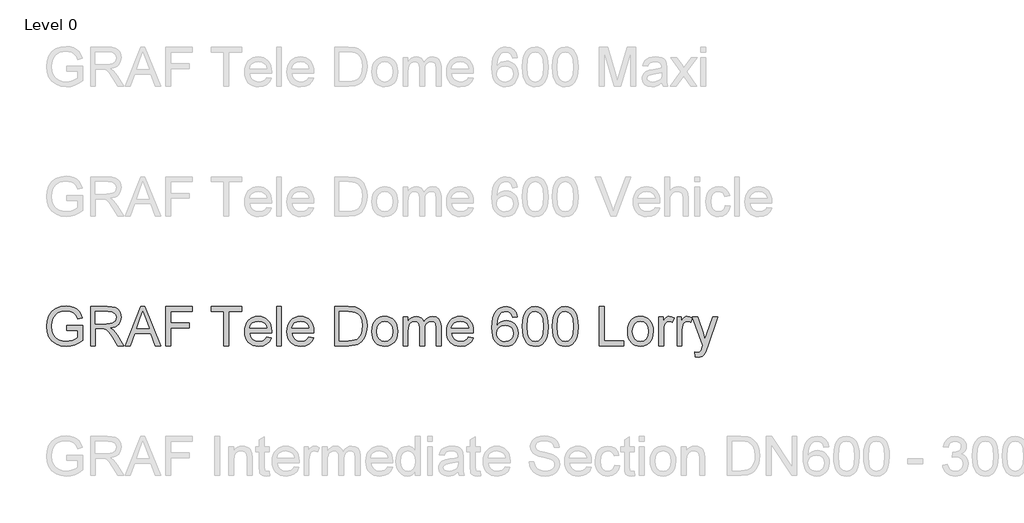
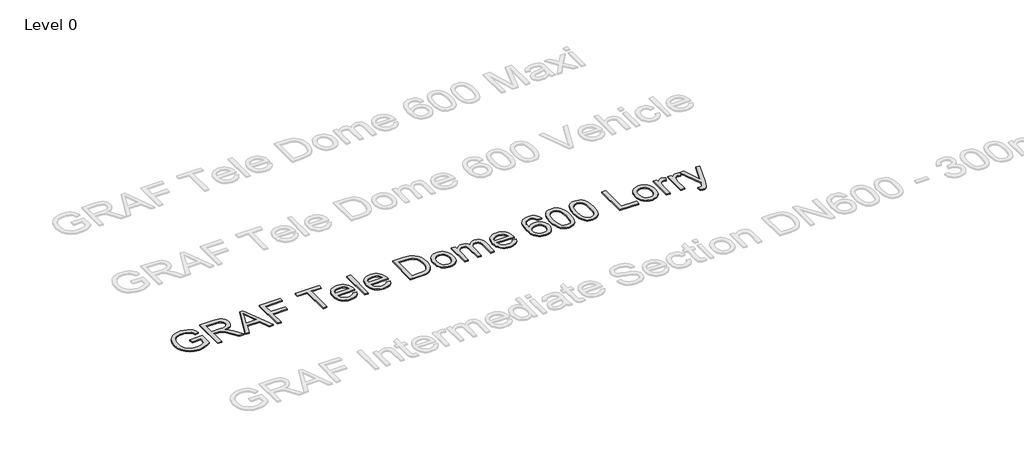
# One storey, part 3 of 14: 1 proxy.
"""IFC4 building model written with IfcOpenShell, lengths in millimetres."""

from ifc_helpers import new_model, si_unit, origin, origin_with_axes, place, context, project, spatial, polyline, outline, extrude, element, save

model = new_model("IFC4")

# Units and contexts
model_context = context("Model", 3, world=origin())
ifc_project = project(units=[si_unit("LENGTHUNIT", "METRE", prefix="MILLI")], contexts=[model_context])

# Site, building, storey
site = spatial("IfcSite", under=ifc_project)
building = spatial("IfcBuilding", under=site)
storey = spatial("IfcBuildingStorey", under=building, Name="Level 0", Elevation=0.0)

# Proxy
placement = place(None, origin())
element("IfcBuildingElementProxy", 1, Name="300mm Arial", ObjectType="300mm Arial", at=placement, inside=storey, context=model_context, shape_type="SweptSolid", body=[
    extrude(outline(polyline([(-15240.9940387, -11082.8803891), (-15240.9940387, -11045.2092728), (-15118.5629107, -11045.2092728), (-15118.5629107, -11157.8547397), (-15148.3153671, -11178.5481019), (-15179.0059225, -11193.3921404), (-15210.5610007, -11202.3316729), (-15242.9070251, -11205.3115171), (-15285.1674693, -11200.5750364), (-15323.3628175, -11186.3655943), (-15355.0926395, -11163.1798316), (-15377.9565055, -11131.5143888), (-15391.7796715, -11093.5305728), (-15396.3873935, -11051.3896903), (-15391.7980656, -11008.9453051), (-15378.0300819, -10969.46237), (-15355.6536596, -10936.3437934), (-15325.2390156, -10912.9924837), (-15288.1932987, -10899.1417266), (-15245.9236575, -10894.5248075), (-15214.8928112, -10897.2011491), (-15186.9889618, -10905.2301736), (-15163.4904994, -10918.032467), (-15145.6758138, -10935.0286152), (-15132.4964413, -10957.0371556), (-15122.9039183, -10984.8766256), (-15157.6319786, -10994.6622866), (-15165.3850917, -10974.8058559), (-15174.8120678, -10959.8238617), (-15187.2832674, -10948.5298844), (-15204.169051, -10939.7375048), (-15224.3013932, -10934.0813191), (-15246.5122687, -10932.1959239), (-15272.5123287, -10934.2284719), (-15294.7415982, -10940.3261159), (-15313.1173039, -10949.7255009), (-15327.5566722, -10961.6632717), (-15346.9440533, -10990.6891611), (-15355.7732212, -11019.1264393), (-15358.7162772, -11049.8445859), (-15355.175413, -11085.8694303), (-15344.5528204, -11115.5115221), (-15327.1703961, -11138.5593291), (-15303.3500369, -11154.8013191), (-15275.4737787, -11164.4306304), (-15245.9236575, -11167.6404008), (-15219.831627, -11165.2215767), (-15194.3833899, -11157.9651043), (-15172.2828791, -11147.9679111), (-15156.234027, -11137.3269244), (-15156.234027, -11082.8803891), (-15240.9940387, -11082.8803891)])), origin_with_axes(), (0.0, 0.0, 1.0), 10.0),
    extrude(outline(polyline([(-15057.3473467, -11200.6026275), (-15057.3473467, -10899.2336971), (-14927.4850024, -10899.2336971), (-14892.5821982, -10901.2662451), (-14867.1891434, -10907.3638892), (-14848.6294968, -10918.6210782), (-14834.2269167, -10936.1322612), (-14824.9838815, -10957.846496), (-14821.9028698, -10981.7128404), (-14827.0072325, -11011.4009174), (-14842.3203206, -11036.0122229), (-14853.9200997, -11046.0416058), (-14868.3019865, -11054.0568348), (-14905.4120827, -11064.0448309), (-14884.0013506, -11080.1580623), (-14853.467145, -11118.9328246), (-14803.2144645, -11200.6026275), (-14846.9924219, -11200.6026275), (-14886.2086426, -11138.1362648), (-14914.5355562, -11096.7863285), (-14934.4379722, -11077.2517946), (-14952.3538253, -11070.0780956), (-14974.2060158, -11068.7537205), (-15019.6762304, -11068.7537205), (-15019.6762304, -11200.6026275), (-15057.3473467, -11200.6026275)]), holes=[polyline([(-15019.6762304, -11031.0826042), (-14935.3576771, -11031.0826042), (-14911.1418448, -11029.7490319), (-14892.3522719, -11025.7483152), (-14878.2072092, -11018.8137396), (-14867.9249074, -11008.6785907), (-14861.6617165, -10996.4189232), (-14859.5739861, -10983.110792), (-14863.5563087, -10964.7350863), (-14875.5032765, -10949.927836), (-14896.058683, -10940.1605691), (-14925.8663217, -10936.9048134), (-15019.6762304, -10936.9048134), (-15019.6762304, -11031.0826042)])]), origin_with_axes(), (0.0, 0.0, 1.0), 10.0),
    extrude(outline(polyline([(-14791.0743586, -11200.6026275), (-14670.7769462, -10899.2336971), (-14638.6976362, -10899.2336971), (-14518.4002238, -11200.6026275), (-14558.2050557, -11200.6026275), (-14592.7123868, -11106.4248368), (-14716.835772, -11106.4248368), (-14751.2695268, -11200.6026275), (-14791.0743586, -11200.6026275)]), holes=[polyline([(-14703.003409, -11068.7537205), (-14606.4711735, -11068.7537205), (-14633.6208647, -10994.6622866), (-14654.7372912, -10936.9048134), (-14673.499273, -10988.1875635), (-14703.003409, -11068.7537205)])]), origin_with_axes(), (0.0, 0.0, 1.0), 10.0),
    extrude(outline(polyline([(-14478.1539335, -11200.6026275), (-14478.1539335, -10899.2336971), (-14275.6716834, -10899.2336971), (-14275.6716834, -10936.9048134), (-14440.4828172, -10936.9048134), (-14440.4828172, -11026.3737146), (-14299.2161311, -11026.3737146), (-14299.2161311, -11064.0448309), (-14440.4828172, -11064.0448309), (-14440.4828172, -11200.6026275), (-14478.1539335, -11200.6026275)])), origin_with_axes(), (0.0, 0.0, 1.0), 10.0),
    extrude(outline(polyline([(-14030.8094274, -11200.6026275), (-14030.8094274, -10936.9048134), (-14129.6961077, -10936.9048134), (-14129.6961077, -10899.2336971), (-13894.2516308, -10899.2336971), (-13894.2516308, -10936.9048134), (-13993.1383111, -10936.9048134), (-13993.1383111, -11200.6026275), (-14030.8094274, -11200.6026275)])), origin_with_axes(), (0.0, 0.0, 1.0), 10.0),
    extrude(outline(polyline([(-13701.6286181, -11134.678174), (-13664.6932658, -11139.3870635), (-13678.001397, -11167.2173365), (-13699.2373851, -11188.0210633), (-13727.9229837, -11200.9889036), (-13763.5799461, -11205.3115171), (-13786.9542484, -11203.4468152), (-13807.7809678, -11197.8527096), (-13826.0601045, -11188.5292003), (-13841.7916583, -11175.4762873), (-13854.4422004, -11159.057254), (-13863.4783019, -11139.6353839), (-13868.8999628, -11117.210677), (-13870.7071831, -11091.7831334), (-13868.8815687, -11065.4933663), (-13863.4047255, -11042.3213991), (-13854.2766535, -11022.2672319), (-13841.4973527, -11005.3308645), (-13825.8071856, -10991.8755805), (-13807.9465147, -10982.2646634), (-13787.9153401, -10976.4981131), (-13765.7136617, -10974.5759297), (-13744.2270539, -10976.4935146), (-13724.7959868, -10982.2462693), (-13707.4204603, -10991.8341938), (-13692.1004744, -11005.2572881), (-13679.5947859, -11022.1568673), (-13670.6621512, -11042.1742463), (-13665.3025704, -11065.3094253), (-13663.5160434, -11091.5624042), (-13663.7367726, -11101.7159472), (-13833.0360668, -11101.7159472), (-13826.5153584, -11129.9141022), (-13811.3678173, -11150.6442526), (-13789.5064297, -11163.3913637), (-13762.8441821, -11167.6404008), (-13742.7946134, -11165.6722321), (-13725.9088298, -11159.7677261), (-13712.1868314, -11149.5590007), (-13701.6286181, -11134.678174)]), holes=[polyline([(-13833.0360668, -11064.0448309), (-13701.1871597, -11064.0448309), (-13706.2823254, -11044.142415), (-13716.2703215, -11029.9053818), (-13738.2328766, -11016.6616299), (-13765.8608145, -11012.247046), (-13791.2538692, -11015.7695161), (-13812.2507341, -11026.3369264), (-13826.8464522, -11042.8088428), (-13833.0360668, -11064.0448309)])]), origin_with_axes(), (0.0, 0.0, 1.0), 10.0),
    extrude(outline(polyline([(-13625.8449271, -11200.6026275), (-13625.8449271, -10899.2336971), (-13588.1738108, -10899.2336971), (-13588.1738108, -11200.6026275), (-13625.8449271, -11200.6026275)])), origin_with_axes(), (0.0, 0.0, 1.0), 10.0),
    extrude(outline(polyline([(-13376.71524, -11134.678174), (-13339.7798877, -11139.3870635), (-13353.0880188, -11167.2173365), (-13374.324007, -11188.0210633), (-13403.0096056, -11200.9889036), (-13438.666568, -11205.3115171), (-13462.0408702, -11203.4468152), (-13482.8675897, -11197.8527096), (-13501.1467263, -11188.5292003), (-13516.8782801, -11175.4762873), (-13529.5288222, -11159.057254), (-13538.5649238, -11139.6353839), (-13543.9865847, -11117.210677), (-13545.793805, -11091.7831334), (-13543.9681906, -11065.4933663), (-13538.4913474, -11042.3213991), (-13529.3632754, -11022.2672319), (-13516.5839745, -11005.3308645), (-13500.8938074, -10991.8755805), (-13483.0331366, -10982.2646634), (-13463.0019619, -10976.4981131), (-13440.8002835, -10974.5759297), (-13419.3136758, -10976.4935146), (-13399.8826086, -10982.2462693), (-13382.5070821, -10991.8341938), (-13367.1870963, -11005.2572881), (-13354.6814077, -11022.1568673), (-13345.748773, -11042.1742463), (-13340.3891922, -11065.3094253), (-13338.6026653, -11091.5624042), (-13338.8233945, -11101.7159472), (-13508.1226887, -11101.7159472), (-13501.6019803, -11129.9141022), (-13486.4544391, -11150.6442526), (-13464.5930516, -11163.3913637), (-13437.930804, -11167.6404008), (-13417.8812352, -11165.6722321), (-13400.9954517, -11159.7677261), (-13387.2734532, -11149.5590007), (-13376.71524, -11134.678174)]), holes=[polyline([(-13508.1226887, -11064.0448309), (-13376.2737816, -11064.0448309), (-13381.3689472, -11044.142415), (-13391.3569434, -11029.9053818), (-13413.3194985, -11016.6616299), (-13440.9474363, -11012.247046), (-13466.3404911, -11015.7695161), (-13487.3373559, -11026.3369264), (-13501.9330741, -11042.8088428), (-13508.1226887, -11064.0448309)])]), origin_with_axes(), (0.0, 0.0, 1.0), 10.0),
    extrude(outline(polyline([(-13178.500421, -11200.6026275), (-13178.500421, -10899.2336971), (-13074.5369691, -10899.2336971), (-13020.7526214, -10903.5747046), (-12996.7299272, -10911.94402), (-12976.4596292, -10925.1325895), (-12955.6191142, -10948.088426), (-12940.7750757, -10976.6360689), (-12931.8907255, -11010.223695), (-12928.9292754, -11048.2994815), (-12930.9342323, -11080.645506), (-12936.9491029, -11109.1103753), (-12946.1093646, -11133.3446018), (-12957.5504947, -11152.9986974), (-12970.7206701, -11168.5141205), (-12985.0680679, -11180.3323296), (-13001.5399842, -11189.0971181), (-13021.0837152, -11195.4522796), (-13069.533774, -11200.6026275), (-13178.500421, -11200.6026275)]), holes=[polyline([(-13140.8293047, -11162.9315112), (-13074.1690871, -11162.9315112), (-13046.5963316, -11161.5703478), (-13025.6822402, -11157.4868577), (-13009.9001026, -11150.9201641), (-12997.7232085, -11142.1093903), (-12984.6358066, -11125.8030209), (-12974.8041602, -11104.6957914), (-12968.6513339, -11078.6957314), (-12966.6003918, -11047.7108703), (-12970.6195026, -11006.6552397), (-12982.6768349, -10976.3417633), (-13000.4915206, -10955.5196424), (-13021.782691, -10942.9380781), (-13043.4509405, -10938.4131296), (-13075.1991567, -10936.9048134), (-13140.8293047, -10936.9048134), (-13140.8293047, -11162.9315112)])]), origin_with_axes(), (0.0, 0.0, 1.0), 10.0),
    extrude(outline(polyline([(-12891.2581591, -11089.9437234), (-12889.2210126, -11061.2811174), (-12883.1095729, -11036.58244), (-12872.9238402, -11015.847691), (-12858.6638144, -10999.0768706), (-12844.3072195, -10988.3577089), (-12828.4607026, -10980.7011649), (-12811.1242635, -10976.1072385), (-12792.2979024, -10974.5759297), (-12771.514869, -10976.4406316), (-12752.7229968, -10982.0347372), (-12735.9222859, -10991.3582465), (-12721.1127364, -11004.4111595), (-12709.0255136, -11020.7520179), (-12700.391783, -11039.9393632), (-12695.2115447, -11061.9731954), (-12693.4847985, -11086.8535146), (-12696.5382191, -11124.910907), (-12705.6984808, -11153.8816141), (-12720.6988691, -11175.5774548), (-12741.2726697, -11191.8102479), (-12765.7092312, -11201.9361998), (-12792.2979024, -11205.3115171), (-12813.3844386, -11203.453713), (-12832.3510547, -11197.8803008), (-12849.1977508, -11188.5912804), (-12863.9245269, -11175.5866519), (-12875.882991, -11159.0871444), (-12884.4247511, -11139.3134871), (-12889.5498071, -11116.2656801), (-12891.2581591, -11089.9437234)]), holes=[polyline([(-12853.5870428, -11089.870147), (-12849.2276412, -11123.9636109), (-12836.1494363, -11148.2530196), (-12816.4677495, -11162.7935555), (-12792.2979024, -11167.6404008), (-12768.23842, -11162.7659643), (-12748.5935214, -11148.142655), (-12735.5153165, -11123.5313495), (-12731.1559148, -11088.6929246), (-12735.5429076, -11055.5927421), (-12748.703886, -11031.6344272), (-12768.3763757, -11017.0938913), (-12792.2979024, -11012.247046), (-12816.4677495, -11017.0754972), (-12836.1494363, -11031.5608508), (-12849.2276412, -11055.7950772), (-12853.5870428, -11089.870147)])]), origin_with_axes(), (0.0, 0.0, 1.0), 10.0),
    extrude(outline(polyline([(-12651.1047927, -11200.6026275), (-12651.1047927, -10979.2848192), (-12613.4336764, -10979.2848192), (-12613.4336764, -11015.7051368), (-12602.1029109, -10998.975703), (-12587.5347839, -10985.869907), (-12570.2259361, -10977.399424), (-12550.673008, -10974.5759297), (-12529.7221284, -10977.4546063), (-12512.9283153, -10986.0906361), (-12500.3835393, -10999.9138021), (-12492.1797708, -11018.3538871), (-12478.4485753, -10999.2010308), (-12462.7859994, -10985.5204191), (-12445.1920429, -10977.312052), (-12425.666706, -10974.5759297), (-12397.3489895, -10979.1284694), (-12376.4073069, -10992.7860885), (-12363.4670577, -11015.9166689), (-12359.1536413, -11048.8880927), (-12359.1536413, -11200.6026275), (-12396.8247576, -11200.6026275), (-12396.8247576, -11065.0749005), (-12400.3196366, -11033.6209899), (-12405.2308612, -11024.9481719), (-12412.9747772, -11018.1331579), (-12422.9351822, -11013.718574), (-12434.4958739, -11012.247046), (-12454.9041276, -11016.0178365), (-12471.5415908, -11027.3302078), (-12482.6056419, -11046.9567123), (-12486.2936589, -11075.669902), (-12486.2936589, -11200.6026275), (-12523.9647752, -11200.6026275), (-12523.9647752, -11060.8810458), (-12526.144476, -11039.5806782), (-12532.6835784, -11024.3871518), (-12544.1890878, -11015.2820725), (-12561.2680095, -11012.247046), (-12575.7809542, -11014.270397), (-12589.1534647, -11020.3404499), (-12600.1899246, -11030.310052), (-12607.6947173, -11044.0320504), (-12611.9989366, -11063.0699436), (-12613.4336764, -11088.9872302), (-12613.4336764, -11200.6026275), (-12651.1047927, -11200.6026275)])), origin_with_axes(), (0.0, 0.0, 1.0), 10.0),
    extrude(outline(polyline([(-12147.6950705, -11134.678174), (-12110.7597182, -11139.3870635), (-12124.0678494, -11167.2173365), (-12145.3038375, -11188.0210633), (-12173.9894361, -11200.9889036), (-12209.6463985, -11205.3115171), (-12233.0207007, -11203.4468152), (-12253.8474202, -11197.8527096), (-12272.1265568, -11188.5292003), (-12287.8581107, -11175.4762873), (-12300.5086528, -11159.057254), (-12309.5447543, -11139.6353839), (-12314.9664152, -11117.210677), (-12316.7736355, -11091.7831334), (-12314.9480211, -11065.4933663), (-12309.4711779, -11042.3213991), (-12300.3431059, -11022.2672319), (-12287.5638051, -11005.3308645), (-12271.873638, -10991.8755805), (-12254.0129671, -10982.2646634), (-12233.9817925, -10976.4981131), (-12211.7801141, -10974.5759297), (-12190.2935063, -10976.4935146), (-12170.8624391, -10982.2462693), (-12153.4869127, -10991.8341938), (-12138.1669268, -11005.2572881), (-12125.6612382, -11022.1568673), (-12116.7286035, -11042.1742463), (-12111.3690227, -11065.3094253), (-12109.5824958, -11091.5624042), (-12109.803225, -11101.7159472), (-12279.1025192, -11101.7159472), (-12272.5818108, -11129.9141022), (-12257.4342697, -11150.6442526), (-12235.5728821, -11163.3913637), (-12208.9106345, -11167.6404008), (-12188.8610658, -11165.6722321), (-12171.9752822, -11159.7677261), (-12158.2532838, -11149.5590007), (-12147.6950705, -11134.678174)]), holes=[polyline([(-12279.1025192, -11064.0448309), (-12147.2536121, -11064.0448309), (-12152.3487777, -11044.142415), (-12162.3367739, -11029.9053818), (-12184.299329, -11016.6616299), (-12211.9272668, -11012.247046), (-12237.3203216, -11015.7695161), (-12258.3171864, -11026.3369264), (-12272.9129046, -11042.8088428), (-12279.1025192, -11064.0448309)])]), origin_with_axes(), (0.0, 0.0, 1.0), 10.0),
    extrude(outline(polyline([(-11770.542449, -10979.2848192), (-11808.2135653, -10983.9937088), (-11814.2836183, -10965.3236975), (-11822.4873868, -10952.5765864), (-11839.5755054, -10940.8227566), (-11860.2320795, -10936.9048134), (-11877.7432624, -10939.1856818), (-11894.2243758, -10946.0282869), (-11908.3786356, -10960.440064), (-11919.9393273, -10980.2781006), (-11927.7476226, -11008.3382998), (-11930.6446933, -11047.4165647), (-11915.5339404, -11029.7858201), (-11897.4249492, -11017.3606057), (-11877.3293952, -11009.9937688), (-11856.2589539, -11007.5381565), (-11838.1591597, -11009.2166181), (-11821.4573172, -11014.2520029), (-11806.1534262, -11022.6443109), (-11792.2474868, -11034.3935421), (-11780.6913936, -11048.8007208), (-11772.4370413, -11065.166871), (-11767.48443, -11083.4919929), (-11765.8335595, -11103.7760864), (-11768.9421624, -11130.7510337), (-11778.2679709, -11155.7578123), (-11793.038433, -11176.9662093), (-11812.4809965, -11192.5460118), (-11835.7127445, -11202.1201408), (-11861.8507602, -11205.3115171), (-11884.3076568, -11203.1961956), (-11904.589451, -11196.8502312), (-11922.696143, -11186.2736238), (-11938.6277326, -11171.4663735), (-11951.6162663, -11151.8030809), (-11960.8937904, -11126.6583465), (-11966.4603048, -11096.0321704), (-11968.3158096, -11059.9245526), (-11966.2556705, -11019.4437375), (-11960.075253, -10984.8950197), (-11949.7745571, -10956.278399), (-11935.3535829, -10933.5938754), (-11919.7231966, -10918.5612974), (-11901.6004098, -10907.8237417), (-11880.9852225, -10901.3812082), (-11857.8776347, -10899.2336971), (-11824.8234374, -10904.5495919), (-11798.3543279, -10920.4972764), (-11779.8130753, -10945.8259518), (-11770.542449, -10979.2848192)]), holes=[polyline([(-11930.6446933, -11103.1874752), (-11928.4649925, -11119.8801207), (-11921.9258901, -11135.8186082), (-11911.772347, -11149.5222125), (-11898.7493244, -11159.5102087), (-11883.0315661, -11165.6078527), (-11864.7938162, -11167.6404008), (-11839.9341904, -11163.4281519), (-11820.3904594, -11150.7914054), (-11807.7261217, -11130.9257777), (-11803.5046758, -11105.0268852), (-11807.6709394, -11080.1672594), (-11820.1697302, -11061.2121396), (-11840.044555, -11049.2099895), (-11866.3389206, -11045.2092728), (-11891.1617582, -11049.2099895), (-11911.9194998, -11061.2121396), (-11925.9633949, -11079.7074069), (-11930.6446933, -11103.1874752)])]), origin_with_axes(), (0.0, 0.0, 1.0), 10.0),
    extrude(outline(polyline([(-11732.8713327, -11052.3461835), (-11730.1030207, -11004.1076569), (-11721.7980847, -10965.6363972), (-11708.0392981, -10936.3437934), (-11688.9094343, -10915.6412341), (-11664.2705377, -10903.3355813), (-11633.9846524, -10899.2336971), (-11610.7712985, -10901.6617183), (-11589.9859658, -10908.9457818), (-11572.6035415, -10920.8007791), (-11559.598913, -10936.9416016), (-11549.7764637, -10957.2302936), (-11541.9405772, -10981.5288994), (-11536.8086234, -11012.3850018), (-11535.0979721, -11052.3461835), (-11537.838693, -11100.3087986), (-11546.0608556, -11138.6880877), (-11559.7368687, -11168.0082828), (-11578.8391413, -11188.7936155), (-11603.5332203, -11201.1820417), (-11633.9846524, -11205.3115171), (-11654.733197, -11203.5180923), (-11673.1272967, -11198.1378182), (-11689.1669517, -11189.1706945), (-11702.8521619, -11176.6167215), (-11715.9855492, -11153.9230009), (-11725.36654, -11125.646671), (-11730.9951346, -11091.7877319), (-11732.8713327, -11052.3461835)]), holes=[polyline([(-11695.2002164, -11052.2726071), (-11690.7856325, -11111.5291995), (-11685.2674026, -11131.7971981), (-11677.5418807, -11145.8249985), (-11657.8234057, -11162.1865502), (-11633.9846524, -11167.6404008), (-11610.1458991, -11162.1681561), (-11590.4274242, -11145.7514221), (-11582.7019023, -11131.7006291), (-11577.1836724, -11111.437229), (-11572.7690884, -11052.2726071), (-11577.0365196, -10994.3495869), (-11582.3708085, -10974.1482669), (-11589.838813, -10959.7870735), (-11609.5204997, -10942.6253784), (-11634.4261108, -10936.9048134), (-11658.0073467, -10941.9447967), (-11676.9532695, -10957.0647467), (-11684.9363088, -10972.6997315), (-11690.6384797, -10993.7793698), (-11695.2002164, -11052.2726071)])]), origin_with_axes(), (0.0, 0.0, 1.0), 10.0),
    extrude(outline(polyline([(-11502.1357454, -11052.3461835), (-11499.3674333, -11004.1076569), (-11491.0624973, -10965.6363972), (-11477.3037107, -10936.3437934), (-11458.1738469, -10915.6412341), (-11433.5349503, -10903.3355813), (-11403.2490651, -10899.2336971), (-11380.0357112, -10901.6617183), (-11359.2503784, -10908.9457818), (-11341.8679542, -10920.8007791), (-11328.8633256, -10936.9416016), (-11319.0408764, -10957.2302936), (-11311.2049899, -10981.5288994), (-11306.073036, -11012.3850018), (-11304.3623847, -11052.3461835), (-11307.1031056, -11100.3087986), (-11315.3252682, -11138.6880877), (-11329.0012814, -11168.0082828), (-11348.103554, -11188.7936155), (-11372.7976329, -11201.1820417), (-11403.2490651, -11205.3115171), (-11423.9976096, -11203.5180923), (-11442.3917093, -11198.1378182), (-11458.4313643, -11189.1706945), (-11472.1165745, -11176.6167215), (-11485.2499618, -11153.9230009), (-11494.6309527, -11125.646671), (-11500.2595472, -11091.7877319), (-11502.1357454, -11052.3461835)]), holes=[polyline([(-11464.464629, -11052.2726071), (-11460.0500451, -11111.5291995), (-11454.5318152, -11131.7971981), (-11446.8062933, -11145.8249985), (-11427.0878183, -11162.1865502), (-11403.2490651, -11167.6404008), (-11379.4103118, -11162.1681561), (-11359.6918368, -11145.7514221), (-11351.9663149, -11131.7006291), (-11346.448085, -11111.437229), (-11342.0335011, -11052.2726071), (-11346.3009322, -10994.3495869), (-11351.6352211, -10974.1482669), (-11359.1032256, -10959.7870735), (-11378.7849124, -10942.6253784), (-11403.6905234, -10936.9048134), (-11427.2717593, -10941.9447967), (-11446.2176821, -10957.0647467), (-11454.2007214, -10972.6997315), (-11459.9028923, -10993.7793698), (-11464.464629, -11052.2726071)])]), origin_with_axes(), (0.0, 0.0, 1.0), 10.0),
    extrude(outline(polyline([(-11139.5512509, -11200.6026275), (-11139.5512509, -10899.2336971), (-11101.8801346, -10899.2336971), (-11101.8801346, -11162.9315112), (-10951.1956694, -11162.9315112), (-10951.1956694, -11200.6026275), (-11139.5512509, -11200.6026275)])), origin_with_axes(), (0.0, 0.0, 1.0), 10.0),
    extrude(outline(polyline([(-10922.9423321, -11089.9437234), (-10920.9051856, -11061.2811174), (-10914.793746, -11036.58244), (-10904.6080132, -11015.847691), (-10890.3479874, -10999.0768706), (-10875.9913925, -10988.3577089), (-10860.1448756, -10980.7011649), (-10842.8084365, -10976.1072385), (-10823.9820754, -10974.5759297), (-10803.199042, -10976.4406316), (-10784.4071698, -10982.0347372), (-10767.6064589, -10991.3582465), (-10752.7969094, -11004.4111595), (-10740.7096866, -11020.7520179), (-10732.075956, -11039.9393632), (-10726.8957177, -11061.9731954), (-10725.1689715, -11086.8535146), (-10728.2223921, -11124.910907), (-10737.3826538, -11153.8816141), (-10752.3830421, -11175.5774548), (-10772.9568427, -11191.8102479), (-10797.3934042, -11201.9361998), (-10823.9820754, -11205.3115171), (-10845.0686116, -11203.453713), (-10864.0352277, -11197.8803008), (-10880.8819238, -11188.5912804), (-10895.6086999, -11175.5866519), (-10907.567164, -11159.0871444), (-10916.1089241, -11139.3134871), (-10921.2339801, -11116.2656801), (-10922.9423321, -11089.9437234)]), holes=[polyline([(-10885.2712158, -11089.870147), (-10880.9118142, -11123.9636109), (-10867.8336093, -11148.2530196), (-10848.1519225, -11162.7935555), (-10823.9820754, -11167.6404008), (-10799.922593, -11162.7659643), (-10780.2776944, -11148.142655), (-10767.1994895, -11123.5313495), (-10762.8400878, -11088.6929246), (-10767.2270806, -11055.5927421), (-10780.388059, -11031.6344272), (-10800.0605487, -11017.0938913), (-10823.9820754, -11012.247046), (-10848.1519225, -11017.0754972), (-10867.8336093, -11031.5608508), (-10880.9118142, -11055.7950772), (-10885.2712158, -11089.870147)])]), origin_with_axes(), (0.0, 0.0, 1.0), 10.0),
    extrude(outline(polyline([(-10682.7889657, -11200.6026275), (-10682.7889657, -10979.2848192), (-10649.8267389, -10979.2848192), (-10649.8267389, -11012.0263168), (-10637.6498449, -10993.0436059), (-10626.429444, -10981.8599932), (-10615.172255, -10976.3969456), (-10602.8849963, -10974.5759297), (-10584.1230146, -10977.4821975), (-10565.0667272, -10986.2010007), (-10577.6482915, -11019.9725679), (-10590.8920433, -11014.1784265), (-10604.1357951, -11012.247046), (-10615.3837871, -11014.1048501), (-10625.4361626, -11019.6782623), (-10633.5571577, -11028.5442184), (-10639.0110083, -11040.279654), (-10643.5911391, -11061.3225042), (-10645.1178494, -11084.2783407), (-10645.1178494, -11200.6026275), (-10682.7889657, -11200.6026275)])), origin_with_axes(), (0.0, 0.0, 1.0), 10.0),
    extrude(outline(polyline([(-10541.5222795, -11200.6026275), (-10541.5222795, -10979.2848192), (-10508.5600528, -10979.2848192), (-10508.5600528, -11012.0263168), (-10496.3831587, -10993.0436059), (-10485.1627579, -10981.8599932), (-10473.9055688, -10976.3969456), (-10461.6183102, -10974.5759297), (-10442.8563284, -10977.4821975), (-10423.8000411, -10986.2010007), (-10436.3816053, -11019.9725679), (-10449.6253572, -11014.1784265), (-10462.869109, -11012.247046), (-10474.117101, -11014.1048501), (-10484.1694765, -11019.6782623), (-10492.2904715, -11028.5442184), (-10497.7443221, -11040.279654), (-10502.324453, -11061.3225042), (-10503.8511632, -11084.2783407), (-10503.8511632, -11200.6026275), (-10541.5222795, -11200.6026275)])), origin_with_axes(), (0.0, 0.0, 1.0), 10.0),
    extrude(outline(polyline([(-10400.2555934, -11285.3626392), (-10404.9644829, -11249.0894745), (-10385.8346192, -11252.4004125), (-10367.9555542, -11248.2433459), (-10356.9926708, -11236.6550631), (-10346.6919749, -11208.9167606), (-10343.7489189, -11199.7932871), (-10423.8000411, -10979.2848192), (-10384.0687856, -10979.2848192), (-10341.6152034, -11102.1574056), (-10326.8263472, -11151.3064402), (-10312.037491, -11107.8963648), (-10268.4066863, -10979.2848192), (-10228.9697364, -10979.2848192), (-10306.0042262, -11205.9001283), (-10326.0170068, -11255.0491628), (-10336.2625203, -11270.7393299), (-10347.8691973, -11281.6102429), (-10361.3520724, -11287.9562073), (-10377.2261805, -11290.0715288), (-10400.2555934, -11285.3626392)])), origin_with_axes(), (0.0, 0.0, 1.0), 10.0),
])

save(model, "model.ifc")
